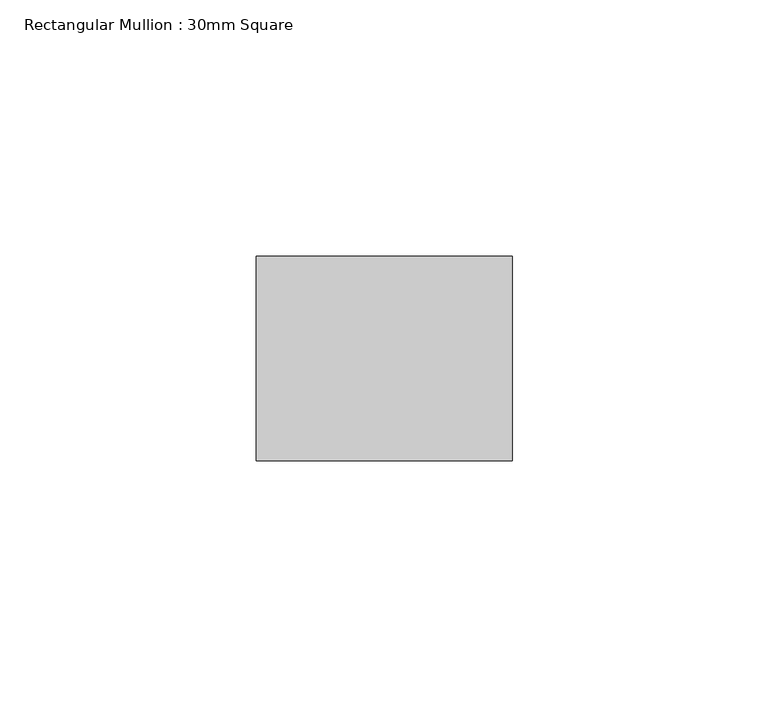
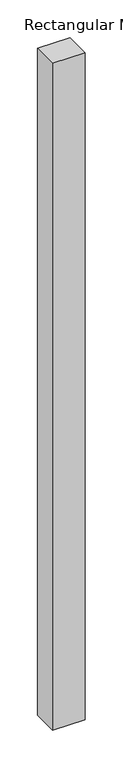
"""IFC4 building model written with IfcOpenShell, lengths in millimetres: member geometry, Rectangular Mullion : 30mm Square."""

import ifcopenshell
import ifcopenshell.guid

model = None  # the IFC model being written
_history = None  # IfcOwnerHistory: only IFC2X3 demands one
_inside = {}  # id of a spatial element -> (the spatial element, [elements in it])
_under = {}  # id of a project, library or spatial element -> (it, [spatial elements below it])
_declared = {}  # id of a project -> (the project, [libraries it declares])
_typed = {}  # id of a type object -> (the type object, [elements of that type])
_made_of = {}  # id of a material, layer set ... -> (it, [elements and type objects made of it])


def new_model(schema):
    """Start an empty IFC model of exactly this schema.

    Asked for "IFC4X3", IfcOpenShell would pick the latest addendum, in which some entities
    have other attributes; the version numbers below select the first issue.
    IFC2X3 requires an IfcOwnerHistory on every rooted entity: one is made here for all.
    """
    global model, _history
    if schema == "IFC4X3":
        model = ifcopenshell.file(schema_version=(4, 3, 0, 0))
    else:
        model = ifcopenshell.file(schema=schema)
    _inside.clear()
    _under.clear()
    _declared.clear()
    _typed.clear()
    _made_of.clear()
    _history = None
    if model.schema == "IFC2X3":
        org = make("IfcOrganization", Name="unknown")
        user = make(
            "IfcPersonAndOrganization",
            ThePerson=make("IfcPerson", FamilyName="unknown"),
            TheOrganization=org,
        )
        app = make(
            "IfcApplication",
            ApplicationDeveloper=org,
            Version="unknown",
            ApplicationFullName="unknown",
            ApplicationIdentifier="unknown",
        )
        _history = make(
            "IfcOwnerHistory",
            OwningUser=user,
            OwningApplication=app,
            ChangeAction="ADDED",
            CreationDate=0,
        )
    return model


def make(cls, **values):
    """One entity of the class cls with the attributes given. An attribute that is None is left unset."""
    return model.create_entity(
        cls, **{name: value for name, value in values.items() if value is not None}
    )


def rooted(cls, **values):
    """An entity with a GlobalId (a new one), such as an element, a storey or a relation."""
    return make(cls, GlobalId=ifcopenshell.guid.new(), OwnerHistory=_history, **values)


def si_unit(unit_type, name, prefix=None):
    """IfcSIUnit, for example si_unit("LENGTHUNIT", "METRE", prefix="MILLI")."""
    return make("IfcSIUnit", UnitType=unit_type, Prefix=prefix, Name=name)


def assignment(units):
    """IfcUnitAssignment: the units of a project."""
    return None if units is None else make("IfcUnitAssignment", Units=units)


def point(xyz):
    """IfcCartesianPoint."""
    return None if xyz is None else make("IfcCartesianPoint", Coordinates=xyz)


def direction(xyz):
    """IfcDirection."""
    return None if xyz is None else make("IfcDirection", DirectionRatios=xyz)


def frame(location, z_axis=None, x_axis=None):
    """IfcAxis2Placement3D, a coordinate frame: its origin and axes. An axis left out is left unset."""
    return make(
        "IfcAxis2Placement3D",
        Location=point(location),
        Axis=direction(z_axis),
        RefDirection=direction(x_axis),
    )


def origin():
    """The frame at (0, 0, 0) with its axes left unset."""
    return frame((0.0, 0.0, 0.0))


def place(relative_to, where):
    """IfcLocalPlacement: puts the frame where relative to a parent placement (None: the world)."""
    return make(
        "IfcLocalPlacement", PlacementRelTo=relative_to, RelativePlacement=where
    )


def context(
    kind, dimensions, precision=None, world=None, true_north=None, identifier=None
):
    """IfcGeometricRepresentationContext, for example the 3D "Model" context."""
    return make(
        "IfcGeometricRepresentationContext",
        ContextIdentifier=identifier,
        ContextType=kind,
        CoordinateSpaceDimension=dimensions,
        Precision=precision,
        WorldCoordinateSystem=world,
        TrueNorth=true_north,
    )


def project(units=None, contexts=None):
    """IfcProject with its units and contexts."""
    return rooted(
        "IfcProject",
        Name="project",
        RepresentationContexts=contexts,
        UnitsInContext=assignment(units),
    )


def spatial(cls, under=None, at=None, **own):
    """A site, building, storey or space (cls), placed at a placement, below another one or the project."""
    s = rooted(cls, ObjectPlacement=at, **own)
    if under is not None:
        _under.setdefault(under.id(), (under, []))[1].append(s)
    return s


def polyline(points):
    """IfcPolyline through the points."""
    return make("IfcPolyline", Points=[point(p) for p in points])


def outline(outer, holes=None, kind="AREA"):
    """IfcArbitraryClosedProfileDef: a profile drawn as a closed curve; with holes, ...WithVoids."""
    if holes is None:
        return make("IfcArbitraryClosedProfileDef", ProfileType=kind, OuterCurve=outer)
    return make(
        "IfcArbitraryProfileDefWithVoids",
        ProfileType=kind,
        OuterCurve=outer,
        InnerCurves=holes,
    )


def extrude(swept, where, along, depth):
    """IfcExtrudedAreaSolid: the profile swept, set in the frame where, extruded along a direction by depth."""
    return make(
        "IfcExtrudedAreaSolid",
        SweptArea=swept,
        Position=where,
        ExtrudedDirection=direction(along),
        Depth=depth,
    )


def shape(context_of_items, identifier, shape_type, items):
    """IfcShapeRepresentation: the items that make up one representation, for example the "Body"."""
    return make(
        "IfcShapeRepresentation",
        ContextOfItems=context_of_items,
        RepresentationIdentifier=identifier,
        RepresentationType=shape_type,
        Items=items,
    )


def source(mapping_origin, context_of_items, identifier, shape_type, items):
    """IfcRepresentationMap: a shape defined once, which mapped items show again and again."""
    return make(
        "IfcRepresentationMap",
        MappingOrigin=mapping_origin,
        MappedRepresentation=shape(context_of_items, identifier, shape_type, items),
    )


def transform(
    local_origin,
    x_axis=None,
    y_axis=None,
    z_axis=None,
    scale=None,
    scale2=None,
    scale3=None,
    uniform=True,
):
    """IfcCartesianTransformationOperator3D, or its non-uniform kind. x_axis, y_axis, z_axis: its Axis1, 2, 3."""
    if uniform:
        return make(
            "IfcCartesianTransformationOperator3D",
            Axis1=direction(x_axis),
            Axis2=direction(y_axis),
            LocalOrigin=point(local_origin),
            Scale=scale,
            Axis3=direction(z_axis),
        )
    return make(
        "IfcCartesianTransformationOperator3DnonUniform",
        Axis1=direction(x_axis),
        Axis2=direction(y_axis),
        LocalOrigin=point(local_origin),
        Scale=scale,
        Axis3=direction(z_axis),
        Scale2=scale2,
        Scale3=scale3,
    )


def mapped(mapping_source, mapping_target):
    """IfcMappedItem: shows the shape of a source again, moved by a transform."""
    return make(
        "IfcMappedItem", MappingSource=mapping_source, MappingTarget=mapping_target
    )


def made_of(thing, what):
    """Note that an element or type object is made of a material, layer set ...; save() writes the relation."""
    if what is not None:
        _made_of.setdefault(what.id(), (what, []))[1].append(thing)
    return thing


def element(
    cls,
    number,
    at=None,
    inside=None,
    cuts=None,
    type_object=None,
    material=None,
    context=None,
    identifier="Body",
    shape_type=None,
    held_by="IfcProductDefinitionShape",
    body=None,
    shapes=None,
    **own,
):
    """One element of the class cls, such as IfcWall. Its Tag is "e" and its number.

    at: its placement. inside: the storey or other place that contains it. cuts: it is an
    opening in that element (IfcRelVoidsElement). A single representation is given by context,
    identifier, shape_type and body (its items); several are given by shapes. held_by: the class
    of the entity that holds the representations. save() writes the other relations.
    """
    e = rooted(cls, Tag="e%d" % number, ObjectPlacement=at, **own)
    if body is not None:
        shapes = [shape(context, identifier, shape_type, body)]
    if shapes is not None:
        e.Representation = make(held_by, Representations=shapes)
    if inside is not None:
        _inside.setdefault(inside.id(), (inside, []))[1].append(e)
    if cuts is not None:
        rooted(
            "IfcRelVoidsElement", RelatingBuildingElement=cuts, RelatedOpeningElement=e
        )
    if type_object is not None:
        _typed.setdefault(type_object.id(), (type_object, []))[1].append(e)
    return made_of(e, material)


def aggregate(whole, parts):
    """IfcRelAggregates: a whole, such as a stair, and the parts it consists of."""
    return rooted("IfcRelAggregates", RelatingObject=whole, RelatedObjects=parts)


def save(model, path):
    """Write the relations noted so far, then the file.

    IfcRelAggregates (storeys below a building ...), IfcRelContainedInSpatialStructure (elements
    in a storey), IfcRelDefinesByType, IfcRelAssociatesMaterial and IfcRelDeclares: one each for
    every whole, place, type object, material and project.
    """
    for whole, parts in _under.values():
        aggregate(whole, parts)
    for where, things in _inside.values():
        rooted(
            "IfcRelContainedInSpatialStructure",
            RelatedElements=things,
            RelatingStructure=where,
        )
    for kind, things in _typed.values():
        rooted("IfcRelDefinesByType", RelatedObjects=things, RelatingType=kind)
    for what, things in _made_of.values():
        rooted("IfcRelAssociatesMaterial", RelatedObjects=things, RelatingMaterial=what)
    for by, libraries in _declared.values():
        rooted("IfcRelDeclares", RelatingContext=by, RelatedDefinitions=libraries)
    model.write(path)


def rectangular_mullion_30mm_square_9fe42079(model_context):
    return source(origin(), model_context, "Body", "SweptSolid", [
        extrude(outline(polyline([(0.0, 20.0), (0.0, -20.0), (-50.0, -20.0), (-50.0, 20.0), (0.0, 20.0)])), frame((0.0, 0.0, -1080.3490056), z_axis=(0.0, 0.0, 1.0), x_axis=(1.0, 0.0, 0.0)), (0.0, 0.0, 1.0), 1080.3490056),
    ])


if __name__ == "__main__":
    model = new_model("IFC4")
    model_context = context("Model", 3, world=origin())
    ifc_project = project(units=[si_unit("LENGTHUNIT", "METRE", prefix="MILLI")], contexts=[model_context])
    site = spatial("IfcSite", under=ifc_project)
    building = spatial("IfcBuilding", under=site)
    placement = place(None, origin())
    rectangular_mullion_30mm_square_shape = rectangular_mullion_30mm_square_9fe42079(model_context)
    element("IfcMember", 1, ObjectType="Rectangular Mullion : 30mm Square", at=placement, inside=building, context=model_context, shape_type="MappedRepresentation", body=[
        mapped(rectangular_mullion_30mm_square_shape, transform((0.0, 0.0, 0.0), x_axis=(1.0, 0.0, 0.0), y_axis=(0.0, 1.0, 0.0), z_axis=(0.0, 0.0, 1.0))),
    ])
    save(model, "model.ifc")
